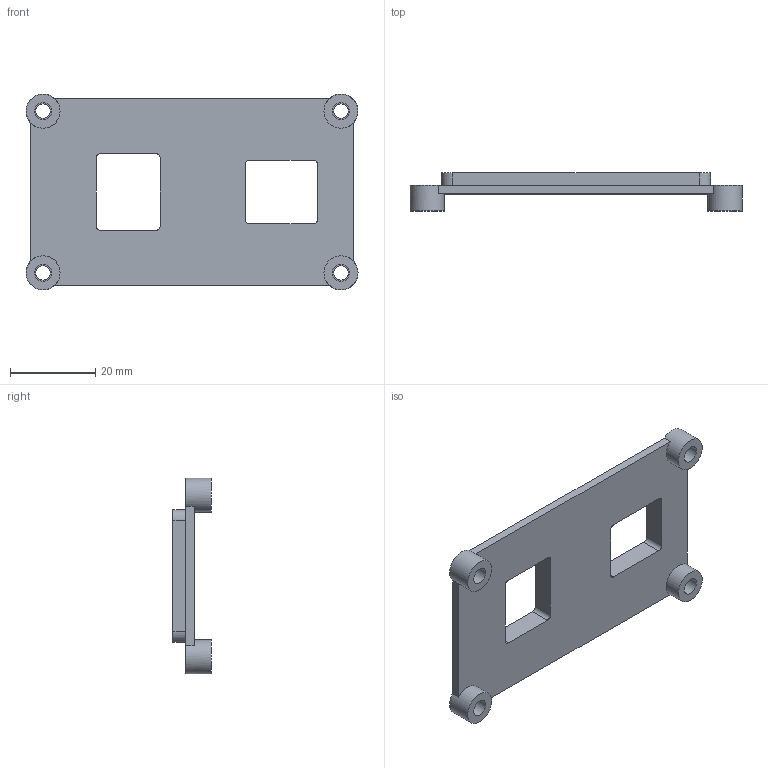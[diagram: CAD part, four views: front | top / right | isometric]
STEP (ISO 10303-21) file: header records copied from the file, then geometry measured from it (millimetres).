
FILE_DESCRIPTION(/* description */ ('Replaceable rear panel. Apertures are provisional envelopes for panel-mount extensions, not verified connector footprints. Select USB-C power, 5.5x2.1 DC, Ethernet and dual USB 3 extensions before printing this part.'),/* implementation_level */ '2;1');
FILE_NAME(/* name */ '06 Ethernet and USB panel.step',/* time_stamp */ '2026-10-02T18:55:16+01:00',/* author */ (''),/* organization */ (''),/* preprocessor_version */ 'ST-DEVELOPER v20.2',/* originating_system */ 'Autodesk Translation Framework v15.15.0.0',/* authorisation */ '');
FILE_SCHEMA (('AUTOMOTIVE_DESIGN { 1 0 10303 214 3 1 1 }'));
Length unit declared in the file: millimetre
Products named in the file (1): 2026-10-02-18-55-16-469
Bounding box: 78 x 9 x 46 mm (x, y, z)
Volume: 10543.8 mm3; surface area: 7994.5 mm2
Topology: 1 solids, 1 shells, 51 faces, 132 edges, 88 vertices
Faces by surface type: plane 27, cylinder 24
Full cylindrical faces by diameter (mm): 3.4 x4, 4 x4, 8 x4
Entity records: 1646 total; most frequent: DIRECTION 292, CARTESIAN_POINT 272, ORIENTED_EDGE 264, EDGE_CURVE 132, AXIS2_PLACEMENT_3D 108, VERTEX_POINT 88, LINE 76, VECTOR 76
